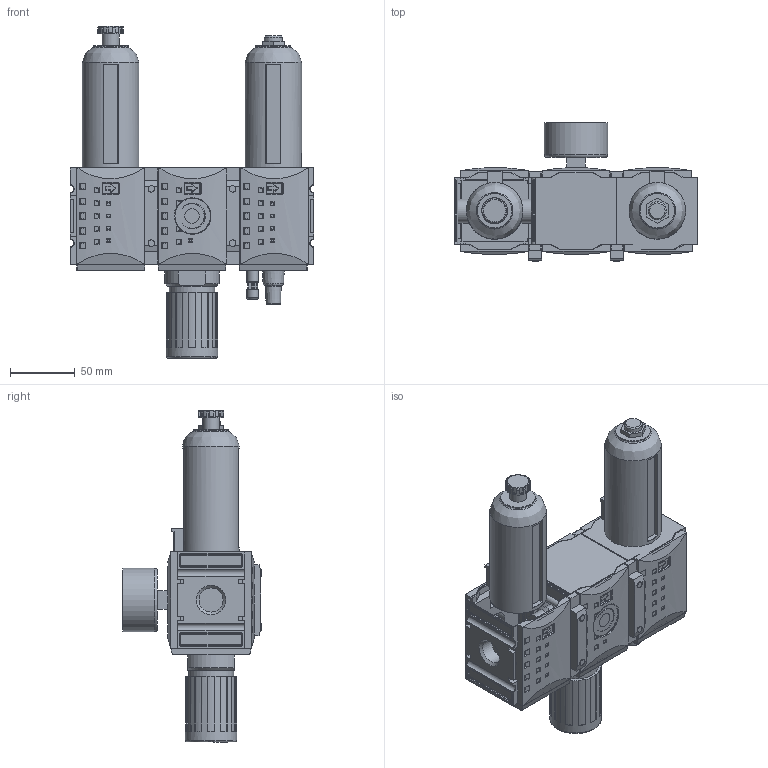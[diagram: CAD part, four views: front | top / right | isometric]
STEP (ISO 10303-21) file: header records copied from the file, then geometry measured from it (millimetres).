
FILE_DESCRIPTION((''),'2;1');
FILE_NAME('K:\ZEICHNG\Kunden Modelle\Airtec Schweden\BG2\KS3U-212.stp','2010-02-02T11:29:03',('DDruske'),(''),'Autodesk Inventor 2009','Autodesk Inventor 2009','');
FILE_SCHEMA(('AUTOMOTIVE_DESIGN { 1 0 10303 214 1 1 1 1 }'));
Length unit declared in the file: millimetre
Products named in the file (1): Bauteil15
Bounding box: 189 x 107.5 x 257.2 mm (x, y, z)
Volume: 1217412.4 mm3; surface area: 199278.7 mm2
Topology: 1 solids, 16 shells, 2941 faces, 7888 edges, 4858 vertices
Faces by surface type: plane 1161, cylinder 954, bspline 463, torus 268, cone 51, sphere 44
Full cylindrical faces by diameter (mm): 5 x6, 6 x4, 6.3 x1, 9 x2, 11.245 x3, 11.445 x3, 11.45 x1, 13 x1, 14 x1, 18.631 x3, 19 x6, 20 x1, 27 x2, 28 x2, 35 x1, 40 x1, 43.8 x2, 45 x1, 49 x1
Entity records: 111134 total; most frequent: CARTESIAN_POINT 37784, ORIENTED_EDGE 15280, DIRECTION 13757, EDGE_CURVE 7640, VERTEX_POINT 4821, AXIS2_PLACEMENT_3D 4602, VECTOR 4553, LINE 4553
